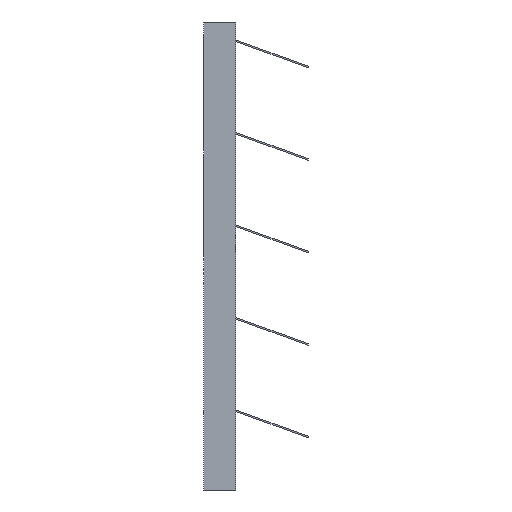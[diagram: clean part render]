
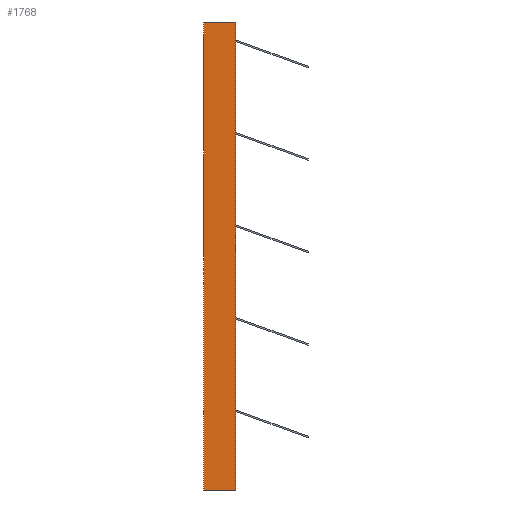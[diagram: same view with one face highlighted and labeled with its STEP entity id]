
A CAD part, left-side view. The second image highlights one B-rep face of the part: STEP entity #1768.
In plain terms, the highlighted planar face has unit normal (-1, 0, 0).
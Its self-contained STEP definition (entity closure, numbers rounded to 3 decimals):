
#246=LINE('',#2764,#486);
#251=LINE('',#2774,#491);
#252=LINE('',#2777,#492);
#253=LINE('',#2778,#493);
#486=VECTOR('',#2278,10.);
#491=VECTOR('',#2287,10.);
#492=VECTOR('',#2290,10.);
#493=VECTOR('',#2291,10.);
#572=PLANE('',#1868);
#672=FACE_OUTER_BOUND('',#766,.T.);
#766=EDGE_LOOP('',(#1659,#1660,#1661,#1662));
#927=VERTEX_POINT('',#2757);
#930=VERTEX_POINT('',#2762);
#933=VERTEX_POINT('',#2772);
#934=VERTEX_POINT('',#2776);
#1174=EDGE_CURVE('',#930,#927,#246,.T.);
#1179=EDGE_CURVE('',#933,#930,#251,.T.);
#1180=EDGE_CURVE('',#934,#933,#252,.T.);
#1181=EDGE_CURVE('',#927,#934,#253,.T.);
#1659=ORIENTED_EDGE('',*,*,#1179,.F.);
#1660=ORIENTED_EDGE('',*,*,#1180,.F.);
#1661=ORIENTED_EDGE('',*,*,#1181,.F.);
#1662=ORIENTED_EDGE('',*,*,#1174,.F.);
#1768=ADVANCED_FACE('',(#672),#572,.T.);
#1868=AXIS2_PLACEMENT_3D('',#2775,#2288,#2289);
#2278=DIRECTION('',(0.,0.,-1.));
#2287=DIRECTION('',(0.,-1.,0.));
#2288=DIRECTION('center_axis',(-1.,0.,0.));
#2289=DIRECTION('ref_axis',(0.,0.,1.));
#2290=DIRECTION('',(0.,0.,1.));
#2291=DIRECTION('',(0.,1.,0.));
#2757=CARTESIAN_POINT('',(-438.,-20.,-292.5));
#2762=CARTESIAN_POINT('',(-438.,-20.,292.5));
#2764=CARTESIAN_POINT('',(-438.,-20.,292.5));
#2772=CARTESIAN_POINT('',(-438.,20.,292.5));
#2774=CARTESIAN_POINT('',(-438.,0.,292.5));
#2775=CARTESIAN_POINT('Origin',(-438.,0.,-292.5));
#2776=CARTESIAN_POINT('',(-438.,20.,-292.5));
#2777=CARTESIAN_POINT('',(-438.,20.,292.5));
#2778=CARTESIAN_POINT('',(-438.,0.,-292.5));
